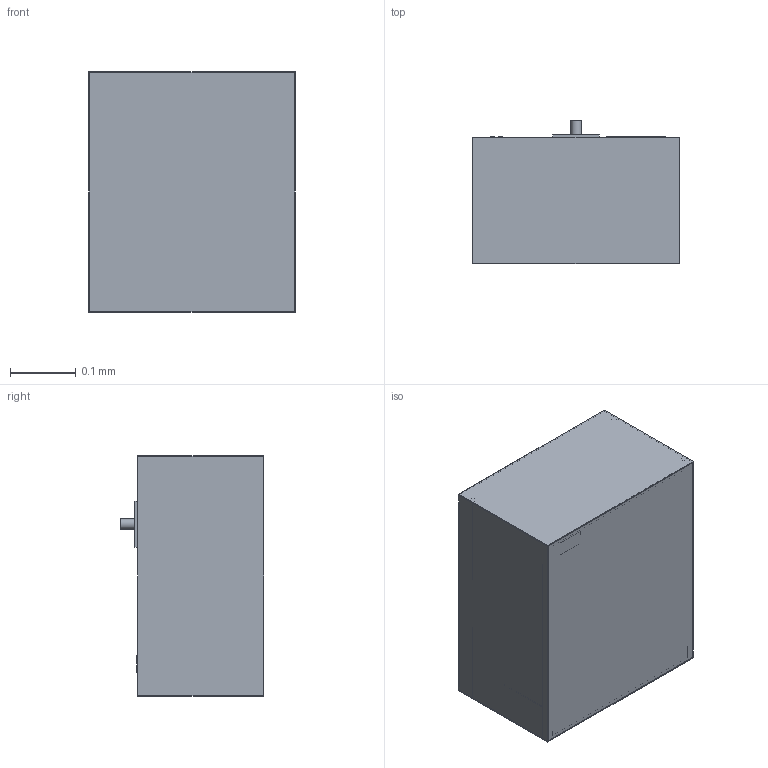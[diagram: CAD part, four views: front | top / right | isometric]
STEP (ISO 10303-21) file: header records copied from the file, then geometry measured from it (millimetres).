
FILE_DESCRIPTION(('Open CASCADE Model'),'2;1');
FILE_NAME('Open CASCADE Shape Model','2026-10-04T13:16:37',('Author'),( 'Open CASCADE'),'Open CASCADE STEP processor 7.9','Open CASCADE 7.9' ,'Unknown');
FILE_SCHEMA(('AUTOMOTIVE_DESIGN { 1 0 10303 214 1 1 1 1 }'));
Length unit declared in the file: millimetre
Products named in the file (135): MOD-heart-cells; fluid__HEPES_medium_130_mL; fluid__HEPES_medium_port; fluid__compound_52_mL; fluid__compound_port; fluid__vehicle_52_mL; fluid__vehicle_port; fluid__4_PFA_52_mL; fluid__4_PFA_port; fluid__RNA_stabilizer_52_mL; fluid__RNA_stabilizer_port; fluid__waste_bag_empty_at_launch_130_mL_capacity_under_the_reagent_
bags; fluid__waste_bag_port; electronics__controller_enclosure_boards_data_storage; electronics__connector_1; electronics__connector_2; pump__fluid_manifold; pump__micro_pump_1; pump__micro_pump_2; pump__valve_1; pump__valve_2; pump__valve_3; pump__valve_4; pump__manifold_inlet; pump__manifold_outlet; imaging__microscope_base_optics_filter_cubes_camera; imaging__objective; imaging__stage_post_1; imaging__stage_post_2; imaging__stage_post_3; imaging__stage_post_4; imaging__XY_stage_frame_travel_96_5_x_57_9_mm_every_well_over_the_
objective; imaging__stage_carriage; imaging__X_stepper; imaging__Y_stepper; imaging__illumination_column; imaging__illumination_arm; imaging__arm_to_head; imaging__LED_head_transmitted_light; sample__cassette_24_wells_SBS_footprint_19_3_mm_pitch ...
Assembly tree (134 placements, depth 2):
  MOD-heart-cells
    fluid__HEPES_medium_130_mL
    fluid__HEPES_medium_port
    fluid__compound_52_mL
    fluid__compound_port
    fluid__vehicle_52_mL
    fluid__vehicle_port
    fluid__4_PFA_52_mL
    fluid__4_PFA_port
    fluid__RNA_stabilizer_52_mL
    fluid__RNA_stabilizer_port
    fluid__waste_bag_empty_at_launch_130_mL_capacity_under_the_reagent_
bags
    fluid__waste_bag_port
    electronics__controller_enclosure_boards_data_storage
    electronics__connector_1
    electronics__connector_2
    pump__fluid_manifold
    pump__micro_pump_1
    pump__micro_pump_2
    pump__valve_1
    pump__valve_2
    pump__valve_3
    pump__valve_4
    pump__manifold_inlet
    pump__manifold_outlet
    imaging__microscope_base_optics_filter_cubes_camera
    imaging__objective
    imaging__stage_post_1
    imaging__stage_post_2
    imaging__stage_post_3
    imaging__stage_post_4
    imaging__XY_stage_frame_travel_96_5_x_57_9_mm_every_well_over_the_
objective
    imaging__stage_carriage
    imaging__X_stepper
    imaging__Y_stepper
    imaging__illumination_column
    imaging__illumination_arm
    imaging__arm_to_head
    imaging__LED_head_transmitted_light
    sample__cassette_24_wells_SBS_footprint_19_3_mm_pitch
    sample__culture_in_the_wells
    sample__cassette_lid_sealed_and_gas_permeable
    sample__cassette_fluid_port_1
    sample__cassette_fluid_port_2
    sensor__sensor_pack
    sensor__sensor_pack_head_1
    sensor__sensor_pack_head_2
    housing__bottom_panel
    housing__top_panel
    housing__side_panel_L
    housing__side_panel_R
    housing__back_panel_bay_interface
    housing__front_panel
    housing__corner_post_1
    housing__corner_post_2
    housing__corner_post_3
    housing__corner_post_4
    housing__shelf_1
    thermal__cold_wall_to_the_bay_s_thermoelectric_block
    thermal__thermoelectric_tile_1
Bounding box: 0.31 x 0.22 x 0.37 mm (x, y, z)
Volume: 0 mm3; surface area: 1.9 mm2
Topology: 158 solids, 158 shells, 671 faces, 993 edges, 662 vertices
Faces by surface type: plane 504, cylinder 167
Full cylindrical faces by diameter (mm): 0.003 x48, 0.005 x26, 0.006 x4, 0.008 x2, 0.009 x4, 0.01 x4, 0.012 x2, 0.015 x24, 0.016 x25, 0.02 x2, 0.022 x1, 0.028 x1
Entity records: 31018 total; most frequent: DIRECTION 4901, CARTESIAN_POINT 4591, LINE 2311, VECTOR 2311, ORIENTED_EDGE 1986, PCURVE 1986, DEFINITIONAL_REPRESENTATION 1986, AXIS2_PLACEMENT_3D 1140
